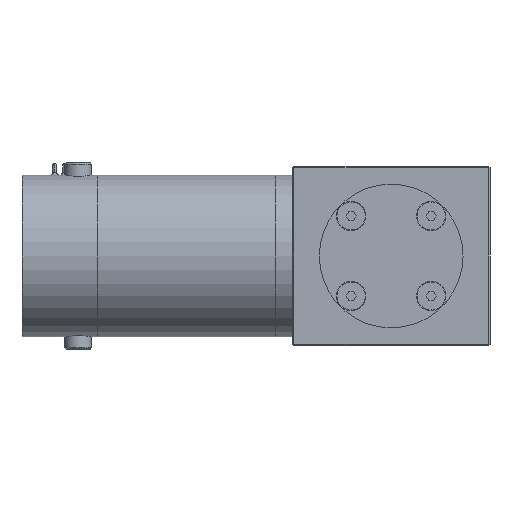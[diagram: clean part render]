
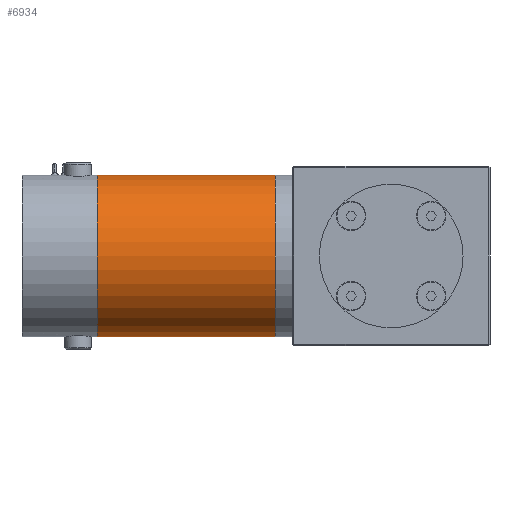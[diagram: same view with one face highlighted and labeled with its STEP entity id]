
A CAD part, left-side view. The second image highlights one B-rep face of the part: STEP entity #6934.
In plain terms, the highlighted cylindrical face has radius 28.575 mm (diameter 57.15 mm), a partial arc.
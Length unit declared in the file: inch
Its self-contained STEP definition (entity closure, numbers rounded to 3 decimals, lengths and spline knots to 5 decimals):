
#669 = DIRECTION ( 'NONE',  ( 0., 0., -1. ) ) ;
#816 = VECTOR ( 'NONE', #11645, 39.37008 ) ;
#1227 = ORIENTED_EDGE ( 'NONE', *, *, #4787, .F. ) ;
#1527 = CARTESIAN_POINT ( 'NONE',  ( 5.75372, 6.20824, 2.51187 ) ) ;
#2010 = CARTESIAN_POINT ( 'NONE',  ( 5.75372, 19692.29761, 3.63687 ) ) ;
#3483 = CIRCLE ( 'NONE', #13890, 1.125 ) ;
#3599 = CARTESIAN_POINT ( 'NONE',  ( 5.75372, 6.20824, 3.63687 ) ) ;
#3641 = CARTESIAN_POINT ( 'NONE',  ( 5.75372, 19692.29761, 4.76187 ) ) ;
#4440 = CARTESIAN_POINT ( 'NONE',  ( 5.75372, 19692.29761, 2.51187 ) ) ;
#4619 = ORIENTED_EDGE ( 'NONE', *, *, #9718, .T. ) ;
#4787 = EDGE_CURVE ( 'NONE', #10391, #6092, #10135, .T. ) ;
#4991 = ORIENTED_EDGE ( 'NONE', *, *, #8484, .T. ) ;
#5503 = EDGE_CURVE ( 'NONE', #13197, #6092, #9922, .T. ) ;
#5835 = DIRECTION ( 'NONE',  ( 0., 0., -1. ) ) ;
#6048 = DIRECTION ( 'NONE',  ( 0., -1., 0. ) ) ;
#6092 = VERTEX_POINT ( 'NONE', #9639 ) ;
#6255 = DIRECTION ( 'NONE',  ( 0., -1., 0. ) ) ;
#6934 = ADVANCED_FACE ( 'NONE', ( #14254 ), #14638, .T. ) ;
#7063 = EDGE_LOOP ( 'NONE', ( #1227, #4619, #4991, #10507 ) ) ;
#7286 = VECTOR ( 'NONE', #6255, 39.37008 ) ;
#7755 = DIRECTION ( 'NONE',  ( 0., 0., 1. ) ) ;
#8484 = EDGE_CURVE ( 'NONE', #13837, #13197, #9632, .T. ) ;
#8890 = CARTESIAN_POINT ( 'NONE',  ( 5.75372, 3.73265, 2.51187 ) ) ;
#9632 = LINE ( 'NONE', #4440, #816 ) ;
#9639 = CARTESIAN_POINT ( 'NONE',  ( 5.75372, 3.73265, 4.76187 ) ) ;
#9718 = EDGE_CURVE ( 'NONE', #10391, #13837, #3483, .T. ) ;
#9772 = AXIS2_PLACEMENT_3D ( 'NONE', #12619, #15039, #7755 ) ;
#9922 = CIRCLE ( 'NONE', #9772, 1.125 ) ;
#10135 = LINE ( 'NONE', #3641, #7286 ) ;
#10391 = VERTEX_POINT ( 'NONE', #13876 ) ;
#10507 = ORIENTED_EDGE ( 'NONE', *, *, #5503, .T. ) ;
#11645 = DIRECTION ( 'NONE',  ( 0., -1., 0. ) ) ;
#12619 = CARTESIAN_POINT ( 'NONE',  ( 5.75372, 3.73265, 3.63687 ) ) ;
#13197 = VERTEX_POINT ( 'NONE', #8890 ) ;
#13837 = VERTEX_POINT ( 'NONE', #1527 ) ;
#13876 = CARTESIAN_POINT ( 'NONE',  ( 5.75372, 6.20824, 4.76187 ) ) ;
#13890 = AXIS2_PLACEMENT_3D ( 'NONE', #3599, #6048, #5835 ) ;
#14190 = DIRECTION ( 'NONE',  ( 0., -1., 0. ) ) ;
#14254 = FACE_OUTER_BOUND ( 'NONE', #7063, .T. ) ;
#14638 = CYLINDRICAL_SURFACE ( 'NONE', #15677, 1.125 ) ;
#15039 = DIRECTION ( 'NONE',  ( 0., 1., 0. ) ) ;
#15677 = AXIS2_PLACEMENT_3D ( 'NONE', #2010, #14190, #669 ) ;
